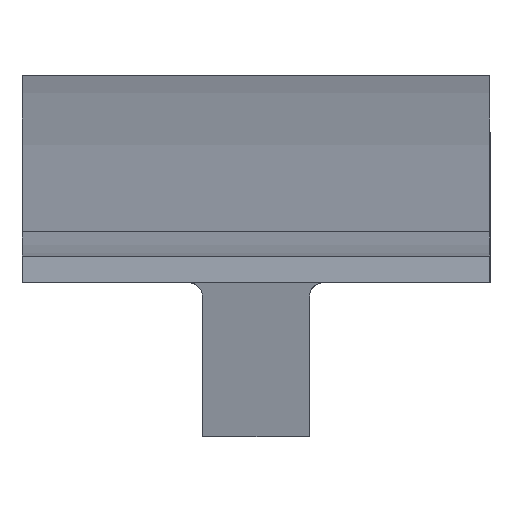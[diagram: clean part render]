
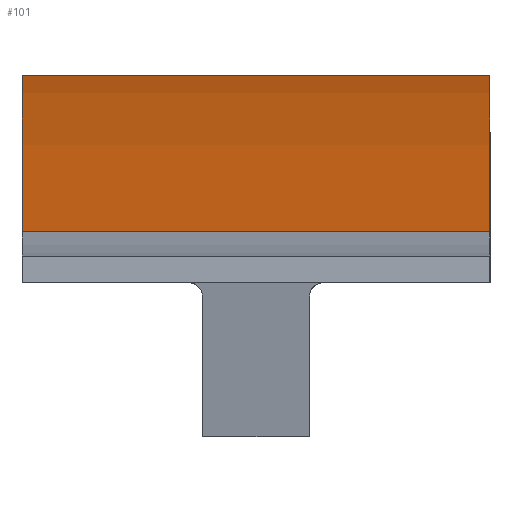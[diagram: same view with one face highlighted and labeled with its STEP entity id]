
A CAD part, left-side view. The second image highlights one B-rep face of the part: STEP entity #101.
In plain terms, the highlighted cylindrical face has radius 581.787 mm (diameter 1163.57 mm), a partial arc.
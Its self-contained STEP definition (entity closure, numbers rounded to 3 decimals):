
#37=CYLINDRICAL_SURFACE('',#792,581.787);
#59=FACE_OUTER_BOUND('',#331,.T.);
#101=ADVANCED_FACE('',(#59),#37,.T.);
#151=LINE('',#1063,#215);
#181=LINE('',#1152,#245);
#215=VECTOR('',#844,1.);
#245=VECTOR('',#924,1.);
#331=EDGE_LOOP('',(#428,#429,#430,#431));
#428=ORIENTED_EDGE('',*,*,#680,.F.);
#429=ORIENTED_EDGE('',*,*,#679,.F.);
#430=ORIENTED_EDGE('',*,*,#681,.T.);
#431=ORIENTED_EDGE('',*,*,#636,.T.);
#567=VERTEX_POINT('',#1061);
#569=VERTEX_POINT('',#1064);
#601=VERTEX_POINT('',#1149);
#602=VERTEX_POINT('',#1151);
#636=EDGE_CURVE('',#569,#567,#151,.T.);
#679=EDGE_CURVE('',#602,#601,#181,.T.);
#680=EDGE_CURVE('',#601,#567,#744,.T.);
#681=EDGE_CURVE('',#602,#569,#745,.T.);
#744=CIRCLE('',#790,581.787);
#745=CIRCLE('',#791,581.787);
#790=AXIS2_PLACEMENT_3D('',#1154,#927,#928);
#791=AXIS2_PLACEMENT_3D('',#1155,#929,#930);
#792=AXIS2_PLACEMENT_3D('',#1156,#931,#932);
#844=DIRECTION('',(0.,1.,0.));
#924=DIRECTION('',(0.,1.,0.));
#927=DIRECTION('',(0.,1.,0.));
#928=DIRECTION('',(1.,0.,0.));
#929=DIRECTION('',(0.,1.,0.));
#930=DIRECTION('',(1.,0.,0.));
#931=DIRECTION('',(0.,1.,0.));
#932=DIRECTION('',(0.,0.,1.));
#1061=CARTESIAN_POINT('',(-50.,17.5,22.));
#1063=CARTESIAN_POINT('',(-50.,-17.5,22.));
#1064=CARTESIAN_POINT('',(-50.,-17.5,22.));
#1149=CARTESIAN_POINT('',(-166.048,17.5,10.309));
#1151=CARTESIAN_POINT('',(-166.048,-17.5,10.309));
#1152=CARTESIAN_POINT('',(-166.048,-17.5,10.309));
#1154=CARTESIAN_POINT('',(-50.,17.5,-559.787));
#1155=CARTESIAN_POINT('',(-50.,-17.5,-559.787));
#1156=CARTESIAN_POINT('',(-50.,-17.5,-559.787));
